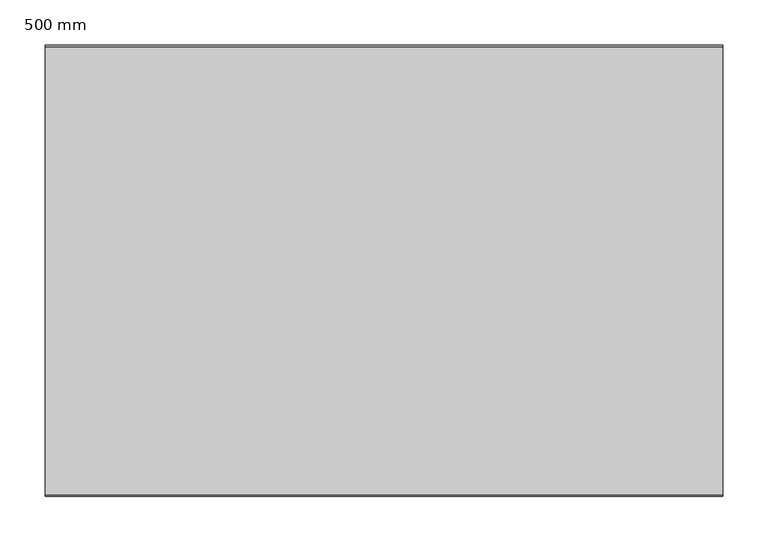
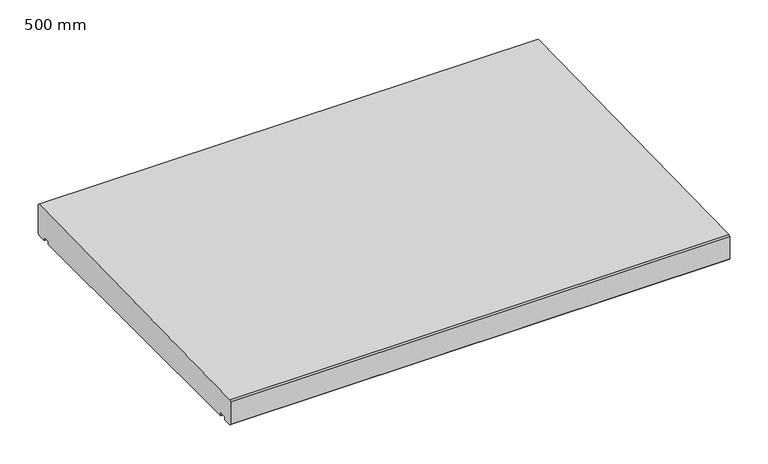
"""IFC4 building model written with IfcOpenShell, lengths in millimetres: proxy geometry, 400_35_NS_afdekker_éénzijdig_afwaterend : 500 mm."""

from ifc_helpers import new_model, si_unit, frame, origin, place, context, project, spatial, polyline, outline, extrude, source, transform, mapped, element, save


def proxy_500_mm_44160a62(model_context):
    return source(origin(), model_context, "Body", "SweptSolid", [
        extrude(outline(polyline([(500.0, 2.0), (498.0, 0.0), (485.0, 0.0), (485.0, 5.0), (475.0, 5.0), (475.0, 0.0), (25.0, 0.0), (25.0, 5.0), (15.0, 5.0), (15.0, 0.0), (2.0, 0.0), (0.0, 2.0), (0.0, 38.0), (2.0, 40.0), (498.0, 50.0), (500.0, 48.0), (500.0, 2.0)])), frame((-375.0, 0.0, 0.0), z_axis=(1.0, 0.0, 0.0), x_axis=(0.0, 1.0, 0.0)), (0.0, 0.0, 1.0), 750.0),
    ])


if __name__ == "__main__":
    model = new_model("IFC4")
    model_context = context("Model", 3, world=origin())
    ifc_project = project(units=[si_unit("LENGTHUNIT", "METRE", prefix="MILLI")], contexts=[model_context])
    site = spatial("IfcSite", under=ifc_project)
    building = spatial("IfcBuilding", under=site)
    placement = place(None, origin())
    proxy_500_mm_shape = proxy_500_mm_44160a62(model_context)
    element("IfcBuildingElementProxy", 1, Name="400_35_NS_afdekker_éénzijdig_afwaterend : 500 mm", ObjectType="400_35_NS_afdekker_éénzijdig_afwaterend : 500 mm", at=placement, inside=building, context=model_context, shape_type="MappedRepresentation", body=[
        mapped(proxy_500_mm_shape, transform((0.0, 0.0, 0.0), x_axis=(1.0, 0.0, 0.0), y_axis=(0.0, 1.0, 0.0), z_axis=(0.0, 0.0, 1.0))),
    ])
    save(model, "model.ifc")
